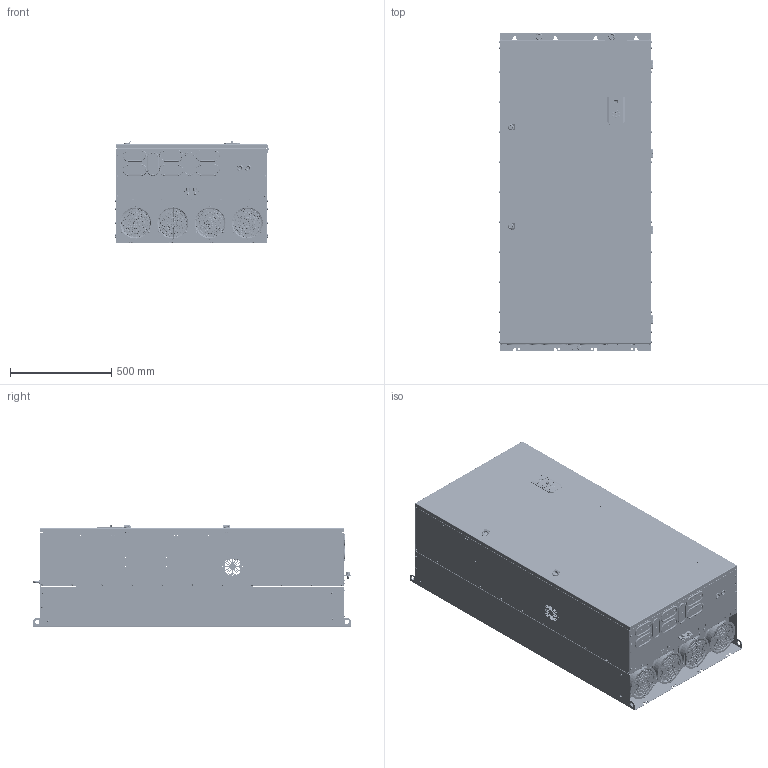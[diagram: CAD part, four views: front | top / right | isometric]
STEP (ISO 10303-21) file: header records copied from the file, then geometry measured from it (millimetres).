
FILE_DESCRIPTION((''),'2;1');
FILE_NAME('D10-DRIVE_REV00_ASM','2023-05-11T16:27:45',('wendong.luo'),(''),'CREO PARAMETRIC BY PTC INC, 2018100','CREO PARAMETRIC BY PTC INC, 2018100','');
FILE_SCHEMA(('CONFIG_CONTROL_DESIGN','GEOMETRIC_VALIDATION_PROPERTIES_MIM'));
Products named in the file (65): D10-MECHANICAL-PART; PRT0001_7; 17251-5YE-2B_1; 17251_ASM_ASM; M0200005; FAN_ASSY_ASM; M0202034; M0202055; M0202073; M0202007; M0202010; M0100145; M0202067; M0202068; M0202065; M0202066; M0202040; M12-25; M0202037_ASM; M0202070; M0100015; M0202003; FASTEN_D10_ASM; M0204027; M0204013; M0204014; M0202014; M0104030; M0104033; E0100084; E0400023; E0400008; E0400009; E0400001; E0400011; E0100084_ASM; M0203006; M0203025; M0203032; CU_NEW_ASM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
Assembly tree (349 placements, depth 4):
  D10-DRIVE_REV00_ASM
    D10-MECHANICAL-PART
    FAN_ASSY_ASM
      17251_ASM_ASM  x4
        PRT0001_7
        17251-5YE-2B_1
      M0200005  x4
    FASTEN_D10_ASM
      M0202034  x53
      M0202055  x2
      M0202073  x2
      M0202007  x64
      M0202010  x15
      M0100145  x8
      M0202067  x16
      M0202068  x16
      M0202065  x16
      M0202066  x16
      M0202040  x16
      M0202037_ASM  x2
        M12-25
        M0202068
        M0202067
      M0202070  x15
      M0100015  x3
      M0202003  x6
    M0204027  x8
    M0204013  x2
    M0204014
    M0202014  x3
    M0104030
    CU_NEW_ASM
      M0104033
      E0100084_ASM
        E0100084
        E0400023
        E0400008
        E0400009  x2
        E0400001
        E0400011
      M0203006
      M0203025
      M0203032
    M0203122
    D10-DOOR-ASM_ASM
      M0100140_ASM
        M0100140
        M0100059-D10
        LOCATING-PIN-4_  x2
        EM-S-M5-ZC  x8
      M0104027
      EXTERNAL_KEYPAD_ASM
        M0104016
        M0104018
        M0104017
        M0203007
      M0204019  x2
      M0204017_ASM  x2
        1092130761
        1092130762
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Bounding box: 761.7 x 1570.9 x 504 mm (x, y, z)
Volume: 164548387.9 mm3; surface area: 15166453.9 mm2
Topology: 617 solids, 696 shells, 49225 faces, 128110 edges, 81504 vertices
Faces by surface type: plane 22500, cylinder 12912, bspline 7289, torus 2353, extrusion 1883, cone 1770, sphere 518
Entity records: 847727 total; most frequent: CARTESIAN_POINT 215838, ORIENTED_EDGE 107966, DIRECTION 95156, EDGE_CURVE 54058, PRESENTATION_STYLE_ASSIGNMENT 36881, VECTOR 35804, VERTEX_POINT 35189, STYLED_ITEM 35186
